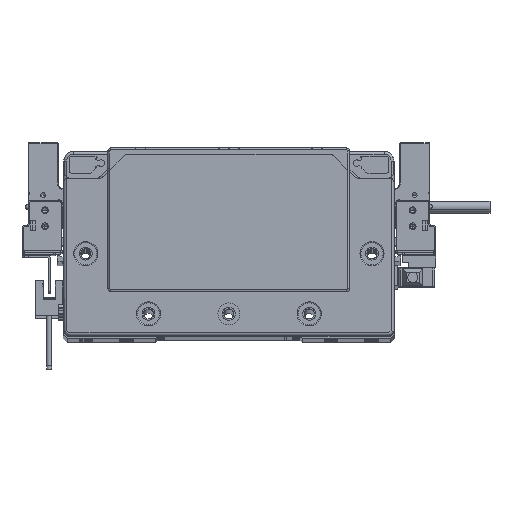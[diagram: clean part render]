
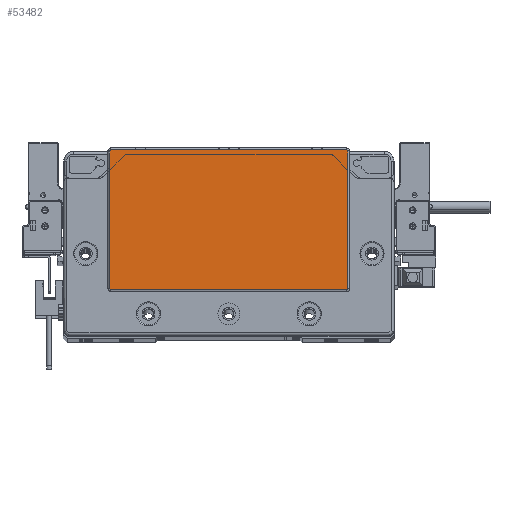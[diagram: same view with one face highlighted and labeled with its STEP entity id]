
A CAD part, top view. The second image highlights one B-rep face of the part: STEP entity #53482.
In plain terms, the highlighted planar face has unit normal (0, 0, 1) as drawn and (0, 0, -1) by its records, which use the part's own axes.
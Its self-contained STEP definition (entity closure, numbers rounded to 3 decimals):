
#5527 = ORIENTED_EDGE ( 'NONE', *, *, #46188, .T. ) ;
#6067 = CARTESIAN_POINT ( 'NONE',  ( 58.75, 45.3, -2. ) ) ;
#6076 = ORIENTED_EDGE ( 'NONE', *, *, #66151, .T. ) ;
#8092 = VERTEX_POINT ( 'NONE', #95236 ) ;
#8302 = CARTESIAN_POINT ( 'NONE',  ( -59.25, -23.3, -2. ) ) ;
#8810 = DIRECTION ( 'NONE',  ( 0., 0., -1. ) ) ;
#10479 = CARTESIAN_POINT ( 'NONE',  ( 58.75, -23.3, -2. ) ) ;
#13201 = CIRCLE ( 'NONE', #27604, 0.5 ) ;
#13991 = DIRECTION ( 'NONE',  ( -1., 0., 0. ) ) ;
#15788 = DIRECTION ( 'NONE',  ( -1., 0., 0. ) ) ;
#16070 = AXIS2_PLACEMENT_3D ( 'NONE', #100677, #31877, #81506 ) ;
#18967 = CIRCLE ( 'NONE', #71262, 0.5 ) ;
#20586 = FACE_OUTER_BOUND ( 'NONE', #22038, .T. ) ;
#21737 = ORIENTED_EDGE ( 'NONE', *, *, #67660, .T. ) ;
#22038 = EDGE_LOOP ( 'NONE', ( #51855, #21737, #55483, #91236, #6076, #81193, #45797, #5527 ) ) ;
#24837 = DIRECTION ( 'NONE',  ( -1., 0., 0. ) ) ;
#25828 = DIRECTION ( 'NONE',  ( -1., 0., 0. ) ) ;
#27604 = AXIS2_PLACEMENT_3D ( 'NONE', #6067, #58010, #13991 ) ;
#28035 = DIRECTION ( 'NONE',  ( 0., 1., 0. ) ) ;
#28160 = DIRECTION ( 'NONE',  ( 1., 0., 0. ) ) ;
#28180 = VERTEX_POINT ( 'NONE', #90729 ) ;
#31877 = DIRECTION ( 'NONE',  ( 0., 0., -1. ) ) ;
#34825 = CARTESIAN_POINT ( 'NONE',  ( 59.25, 45.3, -2. ) ) ;
#35391 = CARTESIAN_POINT ( 'NONE',  ( -59.25, 45.3, -2. ) ) ;
#37172 = CIRCLE ( 'NONE', #76805, 0.5 ) ;
#40488 = VECTOR ( 'NONE', #28035, 1000. ) ;
#43407 = CARTESIAN_POINT ( 'NONE',  ( 58.75, -23.8, -2. ) ) ;
#43896 = DIRECTION ( 'NONE',  ( 0., -1., 0. ) ) ;
#45797 = ORIENTED_EDGE ( 'NONE', *, *, #97636, .T. ) ;
#46188 = EDGE_CURVE ( 'NONE', #28180, #66161, #13201, .T. ) ;
#46303 = VERTEX_POINT ( 'NONE', #111537 ) ;
#47014 = VERTEX_POINT ( 'NONE', #43407 ) ;
#47529 = CARTESIAN_POINT ( 'NONE',  ( -58.75, -23.8, -2. ) ) ;
#50751 = LINE ( 'NONE', #59794, #106335 ) ;
#51543 = VECTOR ( 'NONE', #28160, 1000. ) ;
#51855 = ORIENTED_EDGE ( 'NONE', *, *, #108050, .T. ) ;
#52368 = DIRECTION ( 'NONE',  ( 0., 0., -1. ) ) ;
#53482 = ADVANCED_FACE ( 'NONE', ( #20586 ), #107499, .T. ) ;
#54398 = VERTEX_POINT ( 'NONE', #8302 ) ;
#55483 = ORIENTED_EDGE ( 'NONE', *, *, #72781, .T. ) ;
#58010 = DIRECTION ( 'NONE',  ( 0., 0., -1. ) ) ;
#59794 = CARTESIAN_POINT ( 'NONE',  ( -58.75, -23.8, -2. ) ) ;
#62265 = EDGE_CURVE ( 'NONE', #94845, #54398, #109411, .T. ) ;
#66151 = EDGE_CURVE ( 'NONE', #54398, #107432, #70923, .T. ) ;
#66161 = VERTEX_POINT ( 'NONE', #34825 ) ;
#67660 = EDGE_CURVE ( 'NONE', #46303, #47014, #37172, .T. ) ;
#67710 = DIRECTION ( 'NONE',  ( 0., 0., -1. ) ) ;
#70923 = LINE ( 'NONE', #35391, #40488 ) ;
#71262 = AXIS2_PLACEMENT_3D ( 'NONE', #111162, #67710, #24837 ) ;
#72781 = EDGE_CURVE ( 'NONE', #47014, #94845, #50751, .T. ) ;
#76805 = AXIS2_PLACEMENT_3D ( 'NONE', #10479, #8810, #103548 ) ;
#77200 = CARTESIAN_POINT ( 'NONE',  ( 59.25, -23.3, -2. ) ) ;
#78767 = AXIS2_PLACEMENT_3D ( 'NONE', #78859, #52368, #25828 ) ;
#78859 = CARTESIAN_POINT ( 'NONE',  ( -58.75, -23.3, -2. ) ) ;
#81193 = ORIENTED_EDGE ( 'NONE', *, *, #81886, .T. ) ;
#81506 = DIRECTION ( 'NONE',  ( -1., 0., 0. ) ) ;
#81886 = EDGE_CURVE ( 'NONE', #107432, #8092, #18967, .T. ) ;
#83900 = VECTOR ( 'NONE', #43896, 1000. ) ;
#86227 = LINE ( 'NONE', #77200, #83900 ) ;
#88835 = CARTESIAN_POINT ( 'NONE',  ( -59.25, 45.3, -2. ) ) ;
#90729 = CARTESIAN_POINT ( 'NONE',  ( 58.75, 45.8, -2. ) ) ;
#91236 = ORIENTED_EDGE ( 'NONE', *, *, #62265, .T. ) ;
#94845 = VERTEX_POINT ( 'NONE', #47529 ) ;
#95236 = CARTESIAN_POINT ( 'NONE',  ( -58.75, 45.8, -2. ) ) ;
#97522 = CARTESIAN_POINT ( 'NONE',  ( 58.75, 45.8, -2. ) ) ;
#97636 = EDGE_CURVE ( 'NONE', #8092, #28180, #104351, .T. ) ;
#100677 = CARTESIAN_POINT ( 'NONE',  ( 0., 0., -2. ) ) ;
#103548 = DIRECTION ( 'NONE',  ( -1., 0., 0. ) ) ;
#104351 = LINE ( 'NONE', #97522, #51543 ) ;
#106335 = VECTOR ( 'NONE', #15788, 1000. ) ;
#107432 = VERTEX_POINT ( 'NONE', #88835 ) ;
#107499 = PLANE ( 'NONE',  #16070 ) ;
#108050 = EDGE_CURVE ( 'NONE', #66161, #46303, #86227, .T. ) ;
#109411 = CIRCLE ( 'NONE', #78767, 0.5 ) ;
#111162 = CARTESIAN_POINT ( 'NONE',  ( -58.75, 45.3, -2. ) ) ;
#111537 = CARTESIAN_POINT ( 'NONE',  ( 59.25, -23.3, -2. ) ) ;
